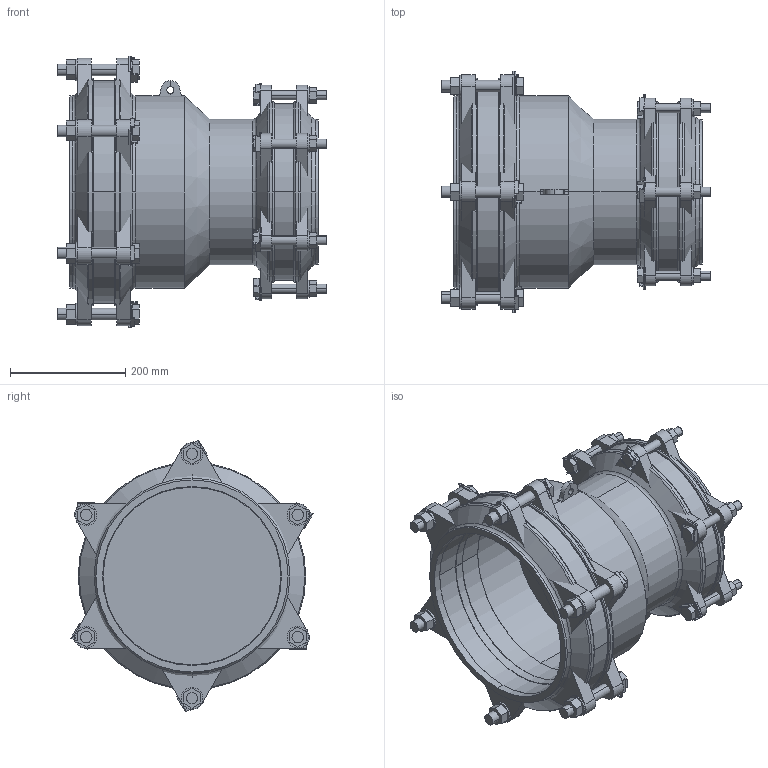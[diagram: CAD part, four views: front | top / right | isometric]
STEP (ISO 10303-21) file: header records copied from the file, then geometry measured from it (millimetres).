
FILE_DESCRIPTION(('STEP AP214'),'1');
FILE_NAME('MJ00006356 DN 250-200.STP','2015-02-06T12:29:41',(' '),(' '),'Spatial InterOp 3D',' ',' ');
FILE_SCHEMA(('automotive_design'));
Length unit declared in the file: millimetre
Products named in the file (85): 3D-Objekt
Bounding box: 468 x 420.33 x 471.96 mm (x, y, z)
Volume: 11956017.4 mm3; surface area: 2142489.2 mm2
Topology: 85 solids, 85 shells, 782 faces, 1758 edges, 1168 vertices
Faces by surface type: plane 560, cylinder 174, cone 24, torus 24
Entity records: 29995 total; most frequent: DIRECTION 3948, CARTESIAN_POINT 3793, ORIENTED_EDGE 3516, EDGE_CURVE 1758, AXIS2_PLACEMENT_3D 1323, LINE 1302, VECTOR 1302, VERTEX_POINT 1168
